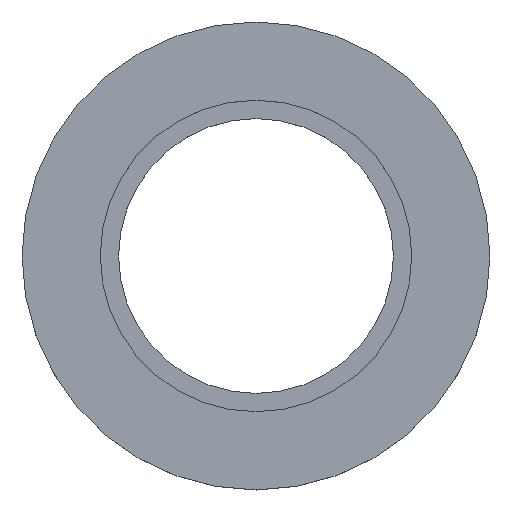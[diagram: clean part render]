
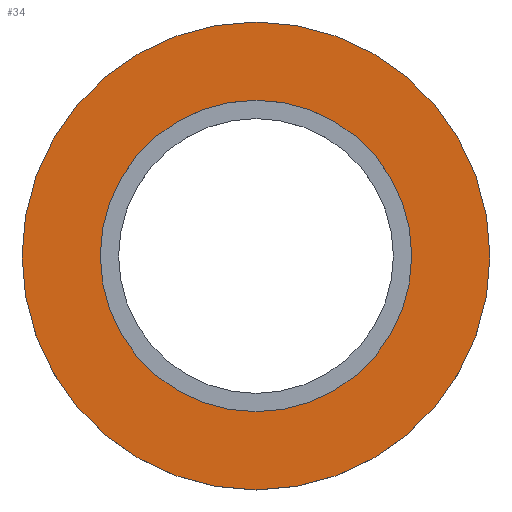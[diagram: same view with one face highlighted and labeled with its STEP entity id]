
A CAD part, top view. The second image highlights one B-rep face of the part: STEP entity #34.
In plain terms, the highlighted planar face has unit normal (0, 0, 1).
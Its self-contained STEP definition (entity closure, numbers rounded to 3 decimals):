
#34 = ADVANCED_FACE( '', ( #67, #68 ), #69, .F. );
#67 = FACE_OUTER_BOUND( '', #98, .T. );
#68 = FACE_BOUND( '', #99, .T. );
#69 = PLANE( '', #100 );
#98 = EDGE_LOOP( '', ( #127 ) );
#99 = EDGE_LOOP( '', ( #128 ) );
#100 = AXIS2_PLACEMENT_3D( '', #129, #130, #131 );
#127 = ORIENTED_EDGE( '', *, *, #156, .F. );
#128 = ORIENTED_EDGE( '', *, *, #157, .T. );
#129 = CARTESIAN_POINT( '', ( 0., 0., 25.4 ) );
#130 = DIRECTION( '', ( 0., 0., -1. ) );
#131 = DIRECTION( '', ( -1., 0., 0. ) );
#156 = EDGE_CURVE( '', #171, #171, #172, .T. );
#157 = EDGE_CURVE( '', #173, #173, #174, .T. );
#171 = VERTEX_POINT( '', #189 );
#172 = CIRCLE( '', #190, 127.7 );
#173 = VERTEX_POINT( '', #191 );
#174 = CIRCLE( '', #192, 85. );
#189 = CARTESIAN_POINT( '', ( 127.7, 0., 25.4 ) );
#190 = AXIS2_PLACEMENT_3D( '', #207, #208, #209 );
#191 = CARTESIAN_POINT( '', ( 85., 0., 25.4 ) );
#192 = AXIS2_PLACEMENT_3D( '', #210, #211, #212 );
#207 = CARTESIAN_POINT( '', ( 0., 0., 25.4 ) );
#208 = DIRECTION( '', ( 0., 0., -1. ) );
#209 = DIRECTION( '', ( 1., 0., 0. ) );
#210 = CARTESIAN_POINT( '', ( 0., 0., 25.4 ) );
#211 = DIRECTION( '', ( 0., 0., -1. ) );
#212 = DIRECTION( '', ( 1., 0., 0. ) );
